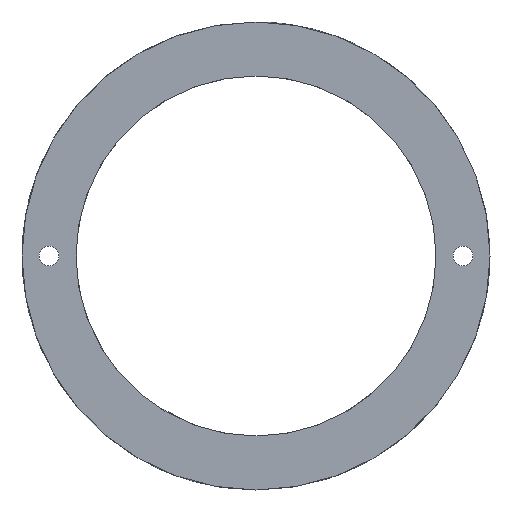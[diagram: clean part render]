
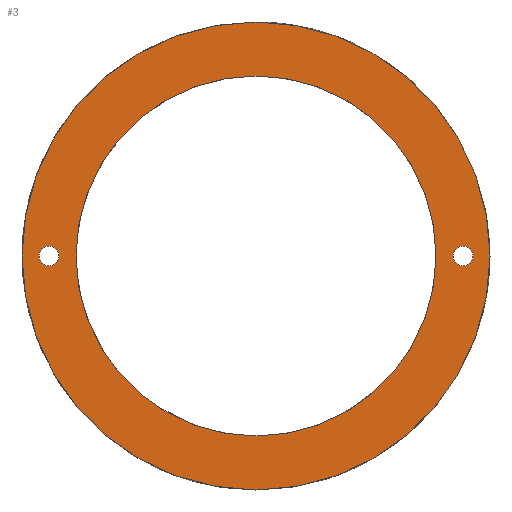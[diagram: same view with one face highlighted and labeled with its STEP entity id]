
A CAD part, front view. The second image highlights one B-rep face of the part: STEP entity #3.
In plain terms, the highlighted planar face has unit normal (0, -1, 0).
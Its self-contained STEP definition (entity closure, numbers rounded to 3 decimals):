
#3 = ADVANCED_FACE ( 'NONE', ( #409, #465, #12, #7 ), #517, .F. ) ;
#4 = DIRECTION ( 'NONE',  ( 0., 0., -1. ) ) ;
#6 = EDGE_CURVE ( 'NONE', #226, #613, #320, .T. ) ;
#7 = FACE_BOUND ( 'NONE', #254, .T. ) ;
#12 = FACE_BOUND ( 'NONE', #609, .T. ) ;
#36 = ORIENTED_EDGE ( 'NONE', *, *, #375, .T. ) ;
#40 = DIRECTION ( 'NONE',  ( 0., 1., 0. ) ) ;
#46 = CIRCLE ( 'NONE', #330, 1.1 ) ;
#51 = AXIS2_PLACEMENT_3D ( 'NONE', #572, #399, #515 ) ;
#58 = ORIENTED_EDGE ( 'NONE', *, *, #6, .T. ) ;
#62 = CARTESIAN_POINT ( 'NONE',  ( -1.925, 0., -27.913 ) ) ;
#63 = VERTEX_POINT ( 'NONE', #62 ) ;
#114 = ORIENTED_EDGE ( 'NONE', *, *, #577, .F. ) ;
#116 = CIRCLE ( 'NONE', #539, 1.1 ) ;
#121 = DIRECTION ( 'NONE',  ( 0., 0., 1. ) ) ;
#128 = EDGE_CURVE ( 'NONE', #656, #374, #46, .T. ) ;
#129 = CARTESIAN_POINT ( 'NONE',  ( -24.925, 0., -1.913 ) ) ;
#134 = DIRECTION ( 'NONE',  ( 0., 1., 0. ) ) ;
#154 = DIRECTION ( 'NONE',  ( 0., 0., 1. ) ) ;
#156 = DIRECTION ( 'NONE',  ( 0., 0., -1. ) ) ;
#163 = ORIENTED_EDGE ( 'NONE', *, *, #195, .T. ) ;
#175 = CARTESIAN_POINT ( 'NONE',  ( -1.925, 0., -1.913 ) ) ;
#176 = CARTESIAN_POINT ( 'NONE',  ( -1.925, 0., -1.913 ) ) ;
#182 = CARTESIAN_POINT ( 'NONE',  ( 21.075, 0., -1.913 ) ) ;
#188 = AXIS2_PLACEMENT_3D ( 'NONE', #596, #422, #719 ) ;
#195 = EDGE_CURVE ( 'NONE', #374, #656, #116, .T. ) ;
#199 = CARTESIAN_POINT ( 'NONE',  ( 21.075, 0., -3.013 ) ) ;
#200 = DIRECTION ( 'NONE',  ( 0., 1., 0. ) ) ;
#207 = CIRCLE ( 'NONE', #505, 1.1 ) ;
#214 = ORIENTED_EDGE ( 'NONE', *, *, #128, .T. ) ;
#222 = VERTEX_POINT ( 'NONE', #666 ) ;
#226 = VERTEX_POINT ( 'NONE', #555 ) ;
#230 = DIRECTION ( 'NONE',  ( 0., 1., 0. ) ) ;
#240 = CIRCLE ( 'NONE', #51, 1.1 ) ;
#241 = CARTESIAN_POINT ( 'NONE',  ( -1.925, 0., -21.913 ) ) ;
#247 = ORIENTED_EDGE ( 'NONE', *, *, #614, .T. ) ;
#254 = EDGE_LOOP ( 'NONE', ( #163, #214 ) ) ;
#261 = CARTESIAN_POINT ( 'NONE',  ( -1.925, 0., -1.913 ) ) ;
#265 = CIRCLE ( 'NONE', #691, 20. ) ;
#315 = CARTESIAN_POINT ( 'NONE',  ( -24.925, 0., -3.013 ) ) ;
#320 = CIRCLE ( 'NONE', #745, 20. ) ;
#330 = AXIS2_PLACEMENT_3D ( 'NONE', #129, #359, #4 ) ;
#332 = DIRECTION ( 'NONE',  ( 0., 0., 1. ) ) ;
#344 = DIRECTION ( 'NONE',  ( 0., 1., 0. ) ) ;
#348 = ORIENTED_EDGE ( 'NONE', *, *, #483, .F. ) ;
#352 = VERTEX_POINT ( 'NONE', #393 ) ;
#359 = DIRECTION ( 'NONE',  ( 0., 1., 0. ) ) ;
#364 = CARTESIAN_POINT ( 'NONE',  ( -24.925, 0., -0.813 ) ) ;
#374 = VERTEX_POINT ( 'NONE', #315 ) ;
#375 = EDGE_CURVE ( 'NONE', #613, #226, #265, .T. ) ;
#383 = EDGE_LOOP ( 'NONE', ( #114, #348 ) ) ;
#393 = CARTESIAN_POINT ( 'NONE',  ( 21.075, 0., -0.813 ) ) ;
#399 = DIRECTION ( 'NONE',  ( 0., 1., 0. ) ) ;
#405 = EDGE_CURVE ( 'NONE', #352, #706, #240, .T. ) ;
#409 = FACE_OUTER_BOUND ( 'NONE', #383, .T. ) ;
#415 = DIRECTION ( 'NONE',  ( 0., 0., 1. ) ) ;
#422 = DIRECTION ( 'NONE',  ( 0., 1., 0. ) ) ;
#433 = CARTESIAN_POINT ( 'NONE',  ( -24.925, 0., -1.913 ) ) ;
#461 = DIRECTION ( 'NONE',  ( 0., 0., 1. ) ) ;
#465 = FACE_BOUND ( 'NONE', #642, .T. ) ;
#467 = ORIENTED_EDGE ( 'NONE', *, *, #405, .T. ) ;
#483 = EDGE_CURVE ( 'NONE', #222, #63, #673, .T. ) ;
#505 = AXIS2_PLACEMENT_3D ( 'NONE', #182, #134, #121 ) ;
#515 = DIRECTION ( 'NONE',  ( 0., 0., 1. ) ) ;
#517 = PLANE ( 'NONE',  #650 ) ;
#533 = CARTESIAN_POINT ( 'NONE',  ( -1.925, 0., -1.913 ) ) ;
#539 = AXIS2_PLACEMENT_3D ( 'NONE', #433, #200, #156 ) ;
#555 = CARTESIAN_POINT ( 'NONE',  ( -1.925, 0., 18.087 ) ) ;
#572 = CARTESIAN_POINT ( 'NONE',  ( 21.075, 0., -1.913 ) ) ;
#577 = EDGE_CURVE ( 'NONE', #63, #222, #579, .T. ) ;
#579 = CIRCLE ( 'NONE', #188, 26. ) ;
#585 = DIRECTION ( 'NONE',  ( 0., 1., 0. ) ) ;
#596 = CARTESIAN_POINT ( 'NONE',  ( -1.925, 0., -1.913 ) ) ;
#609 = EDGE_LOOP ( 'NONE', ( #36, #58 ) ) ;
#613 = VERTEX_POINT ( 'NONE', #241 ) ;
#614 = EDGE_CURVE ( 'NONE', #706, #352, #207, .T. ) ;
#642 = EDGE_LOOP ( 'NONE', ( #247, #467 ) ) ;
#650 = AXIS2_PLACEMENT_3D ( 'NONE', #175, #585, #415 ) ;
#656 = VERTEX_POINT ( 'NONE', #364 ) ;
#666 = CARTESIAN_POINT ( 'NONE',  ( -1.925, 0., 24.087 ) ) ;
#673 = CIRCLE ( 'NONE', #741, 26. ) ;
#691 = AXIS2_PLACEMENT_3D ( 'NONE', #261, #40, #154 ) ;
#706 = VERTEX_POINT ( 'NONE', #199 ) ;
#719 = DIRECTION ( 'NONE',  ( 0., 0., 1. ) ) ;
#741 = AXIS2_PLACEMENT_3D ( 'NONE', #176, #344, #332 ) ;
#745 = AXIS2_PLACEMENT_3D ( 'NONE', #533, #230, #461 ) ;
